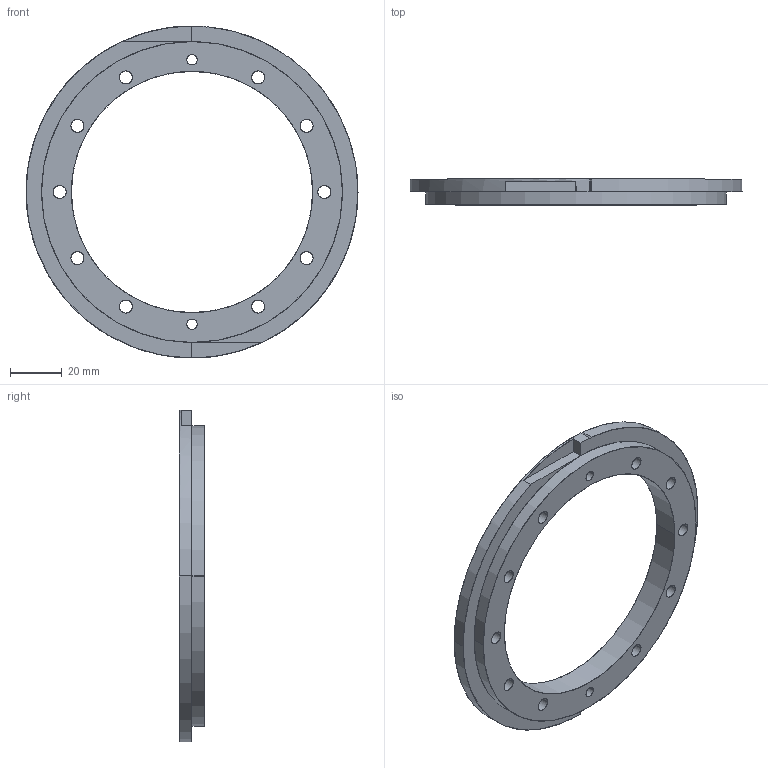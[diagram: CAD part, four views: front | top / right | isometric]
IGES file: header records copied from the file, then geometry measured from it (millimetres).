
Start section: SolidWorks IGES FILE using analytic representation for surfaces
Global section: file name: L:\Projekt\ABB Robotics\P685 PaintRobots2006 CAD-Models\CAD-Underlag IRB5500 TEMPO\SW2004\060711\Left\EngineSaveZip\iges\joints_links\IRB5500_12_T00F71B41V31H51_rev1_8.igs; native system: SolidWorks 2004 by SolidWorks Corporation; preprocessor: Version 5.3; author: joer; date: 060901.140521; units: millimetre
Bounding box: 128 x 9.89 x 128 mm (x, y, z)
Surface area: 20233.2 mm2 (no closed solid volume)
Topology: 0 solids, 0 shells, 43 faces, 1331 edges, 1331 vertices
Faces by surface type: revolution 31, bspline 12
